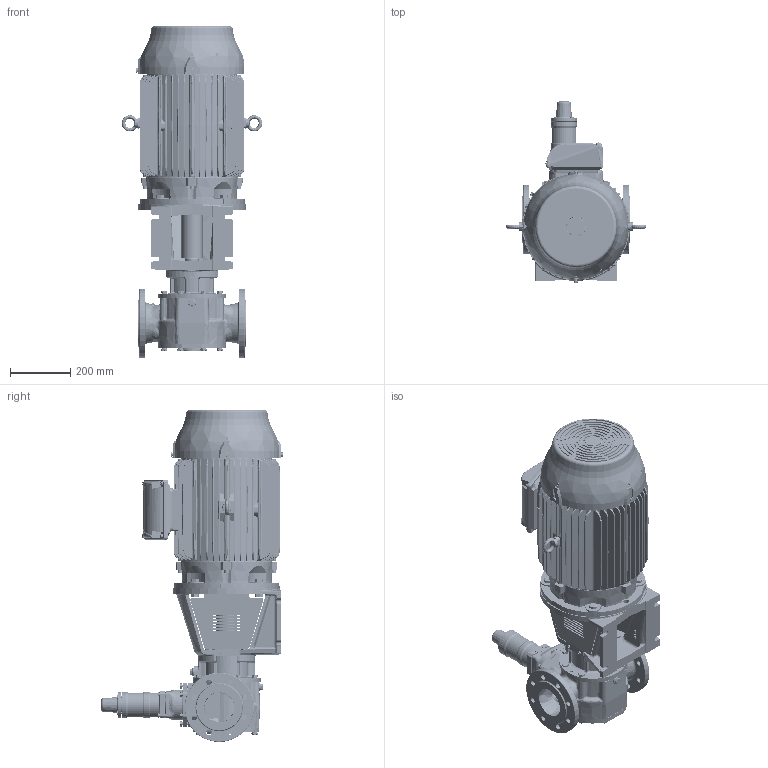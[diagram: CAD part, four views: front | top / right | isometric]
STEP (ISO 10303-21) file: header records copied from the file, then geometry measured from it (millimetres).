
FILE_DESCRIPTION(/* description */ (''),/* implementation_level */ '2;1');
FILE_NAME(/* name */ 'C:\V\JPP\Designs\GEAR PUMPS\PRODUCT ENGINEERING\EUROPE\TG BLOC\TG BLOC_86-100_G2_O_RV1-_180L-STEP.stp',/* time_stamp */ '2021-03-19T14:23:23+01:00',/* author */ ('A77THR'),/* organization */ (''),/* preprocessor_version */ 'ST-DEVELOPER v18.1',/* originating_system */ 'Autodesk Inventor 2020',/* authorisation */ '');
FILE_SCHEMA (('AUTOMOTIVE_DESIGN { 1 0 10303 214 3 1 1 }'));
Length unit declared in the file: millimetre
Products named in the file (1): TG BLOC_86-100_G2_O_RV1-_180L
Bounding box: 466 x 602.64 x 1101.7 mm (x, y, z)
Volume: 66407805.7 mm3; surface area: 2985875 mm2
Topology: 4 solids, 4 shells, 5637 faces, 14458 edges, 8997 vertices
Faces by surface type: plane 1940, bspline 1651, cylinder 1257, cone 561, torus 166, sphere 62
Full cylindrical faces by diameter (mm): 4 x1, 4.5 x8, 4.917 x8, 5 x4, 5.459 x4, 6 x4, 6.3 x1, 6.647 x1, 7 x8, 7.323 x4, 8 x7, 8.7 x4, 9 x6, 9.188 x8, 10 x16, 10.106 x7, 10.2 x2, 11 x8, 11.053 x4, 11.4 x4, 11.445 x2, 11.6 x3, 12 x4, 13 x1, 13.157 x2, 13.2 x2, 14 x8, 15.011 x2, 15.4 x8, 16 x5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
Entity records: 264472 total; most frequent: CARTESIAN_POINT 133942, ORIENTED_EDGE 28706, DIRECTION 23029, EDGE_CURVE 14353, AXIS2_PLACEMENT_3D 9096, VERTEX_POINT 9003, EDGE_LOOP 6058, FACE_OUTER_BOUND 5637
